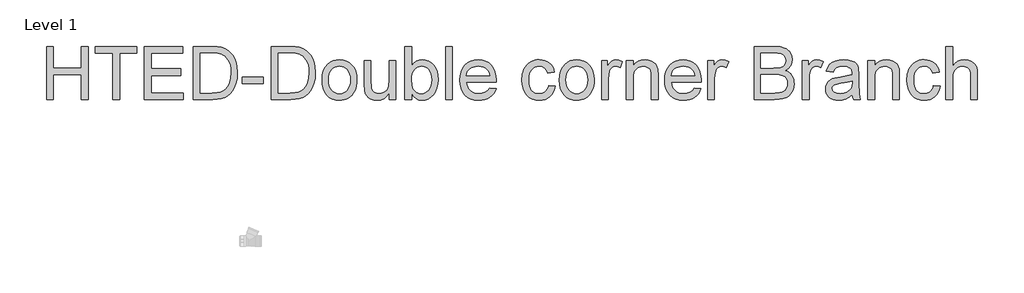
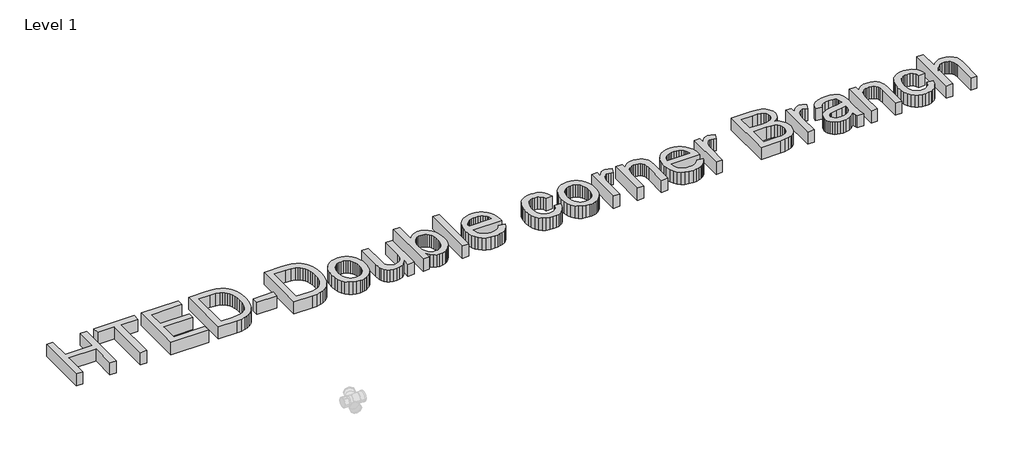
# One storey, part 11 of 29: 1 proxy.
"""IFC4 building model written with IfcOpenShell, lengths in millimetres."""

from ifc_helpers import new_model, si_unit, origin, origin_with_axes, place, context, project, spatial, polyline, outline, extrude, element, save

model = new_model("IFC4")

# Units and contexts
model_context = context("Model", 3, world=origin())
ifc_project = project(units=[si_unit("LENGTHUNIT", "METRE", prefix="MILLI")], contexts=[model_context])

# Site, building, storey
site = spatial("IfcSite", under=ifc_project)
building = spatial("IfcBuilding", under=site)
storey = spatial("IfcBuildingStorey", under=building, Name="Level 1", Elevation=0.0)

# Proxy
placement = place(None, origin())
element("IfcBuildingElementProxy", 1, Name="600mm Arial", ObjectType="600mm Arial", at=placement, inside=storey, context=model_context, shape_type="SweptSolid", body=[
    extrude(outline(polyline([(14763.1344133, -19103.7225193), (14763.1344133, -18500.9846584), (14838.476646, -18500.9846584), (14838.476646, -18745.8469144), (15158.6811346, -18745.8469144), (15158.6811346, -18500.9846584), (15234.0233672, -18500.9846584), (15234.0233672, -19103.7225193), (15158.6811346, -19103.7225193), (15158.6811346, -18821.189147), (14838.476646, -18821.189147), (14838.476646, -19103.7225193), (14763.1344133, -19103.7225193)])), origin_with_axes(), (0.0, 0.0, 1.0), 150.0),
    extrude(outline(polyline([(15516.5567395, -19103.7225193), (15516.5567395, -18576.326891), (15318.7833789, -18576.326891), (15318.7833789, -18500.9846584), (15789.6723327, -18500.9846584), (15789.6723327, -18576.326891), (15591.8989721, -18576.326891), (15591.8989721, -19103.7225193), (15516.5567395, -19103.7225193)])), origin_with_axes(), (0.0, 0.0, 1.0), 150.0),
    extrude(outline(polyline([(15874.4323444, -19103.7225193), (15874.4323444, -18500.9846584), (16307.6501819, -18500.9846584), (16307.6501819, -18576.326891), (15949.774577, -18576.326891), (15949.774577, -18755.2646935), (16288.8146237, -18755.2646935), (16288.8146237, -18830.6069261), (15949.774577, -18830.6069261), (15949.774577, -19028.3802867), (16317.067961, -19028.3802867), (16317.067961, -19103.7225193), (15874.4323444, -19103.7225193)])), origin_with_axes(), (0.0, 0.0, 1.0), 150.0),
    extrude(outline(polyline([(16430.0813099, -19103.7225193), (16430.0813099, -18500.9846584), (16638.0082136, -18500.9846584), (16700.1434825, -18503.1551622), (16745.576909, -18509.6666735), (16793.6222975, -18526.4053043), (16834.1628934, -18552.7824433), (16856.5025275, -18574.3403282), (16875.8439234, -18598.6941163), (16892.1870811, -18625.8438076), (16905.5320005, -18655.789402), (16915.8970757, -18688.254988), (16923.3007008, -18722.9646543), (16929.2236009, -18799.1162273), (16925.2136872, -18863.8082761), (16913.183946, -18920.7380149), (16894.8634226, -18969.2064678), (16871.9811625, -19008.5146589), (16845.6408116, -19039.5455052), (16816.946016, -19063.1819234), (16784.0021834, -19080.7115005), (16744.9147214, -19093.4218234), (16699.6100537, -19101.1473453), (16648.0146038, -19103.7225193), (16430.0813099, -19103.7225193)]), holes=[polyline([(16505.4235425, -19028.3802867), (16638.7439776, -19028.3802867), (16693.8894886, -19025.6579599), (16735.7176715, -19017.4909796), (16767.2819467, -19004.3575924), (16791.6357348, -18986.7360448), (16817.8105387, -18954.123306), (16837.4738313, -18911.908847), (16849.7794841, -18859.908727), (16853.8813683, -18797.9390049), (16851.8718129, -18754.1978357), (16845.8431467, -18715.8277436), (16835.7953697, -18682.8287286), (16821.728482, -18655.2007908), (16804.7829176, -18632.3185307), (16786.0991107, -18613.5565489), (16765.6770615, -18598.9148455), (16743.5167698, -18588.3934205), (16700.1802707, -18579.3435234), (16636.6838384, -18576.326891), (16505.4235425, -18576.326891), (16505.4235425, -19028.3802867)])]), origin_with_axes(), (0.0, 0.0, 1.0), 150.0),
    extrude(outline(polyline([(16985.7302754, -18924.7847168), (16985.7302754, -18849.4424842), (17221.1747523, -18849.4424842), (17221.1747523, -18924.7847168), (16985.7302754, -18924.7847168)])), origin_with_axes(), (0.0, 0.0, 1.0), 150.0),
    extrude(outline(polyline([(17315.3525431, -19103.7225193), (17315.3525431, -18500.9846584), (17523.2794468, -18500.9846584), (17585.4147157, -18503.1551622), (17630.8481421, -18509.6666735), (17678.8935307, -18526.4053043), (17719.4341266, -18552.7824433), (17741.7737607, -18574.3403282), (17761.1151566, -18598.6941163), (17777.4583143, -18625.8438076), (17790.8032337, -18655.789402), (17801.1683089, -18688.254988), (17808.571934, -18722.9646543), (17814.4948341, -18799.1162273), (17810.4849204, -18863.8082761), (17798.4551792, -18920.7380149), (17780.1346558, -18969.2064678), (17757.2523957, -19008.5146589), (17730.9120448, -19039.5455052), (17702.2172492, -19063.1819234), (17669.2734165, -19080.7115005), (17630.1859546, -19093.4218234), (17584.8812869, -19101.1473453), (17533.285837, -19103.7225193), (17315.3525431, -19103.7225193)]), holes=[polyline([(17390.6947757, -19028.3802867), (17524.0152107, -19028.3802867), (17579.1607218, -19025.6579599), (17620.9889047, -19017.4909796), (17652.5531799, -19004.3575924), (17676.9069679, -18986.7360448), (17703.0817719, -18954.123306), (17722.7450645, -18911.908847), (17735.0507173, -18859.908727), (17739.1526015, -18797.9390049), (17737.1430461, -18754.1978357), (17731.1143799, -18715.8277436), (17721.0666029, -18682.8287286), (17706.9997151, -18655.2007908), (17690.0541507, -18632.3185307), (17671.3703439, -18613.5565489), (17650.9482947, -18598.9148455), (17628.788003, -18588.3934205), (17585.4515039, -18579.3435234), (17521.9550716, -18576.326891), (17390.6947757, -18576.326891), (17390.6947757, -19028.3802867)])]), origin_with_axes(), (0.0, 0.0, 1.0), 150.0),
    extrude(outline(polyline([(17889.8370668, -18882.404711), (17893.9113598, -18825.0794991), (17906.1342391, -18775.6821442), (17926.5057046, -18734.2126463), (17955.0257563, -18700.6710054), (17983.738946, -18679.2326821), (18015.4319799, -18663.9195941), (18050.104858, -18654.7317412), (18087.7575802, -18651.6691236), (18129.3236471, -18655.3985274), (18166.9073914, -18666.5867385), (18200.5088132, -18685.2337572), (18230.1279123, -18711.3395832), (18254.3023579, -18744.0213), (18271.569819, -18782.3959906), (18281.9302957, -18826.4636551), (18285.383788, -18876.2242935), (18283.8570777, -18916.5533572), (18279.2769468, -18952.3390783), (18271.6433954, -18983.5814567), (18260.9564235, -19010.2804925), (18247.3493882, -19033.3420951), (18230.9556468, -19053.6721739), (18211.7751993, -19071.2707288), (18189.8080456, -19086.1377599), (18165.9095115, -19097.9513705), (18140.9349226, -19106.3896638), (18114.8842788, -19111.4526397), (18087.7575802, -19113.1402984), (18045.5845079, -19109.4246902), (18007.6512757, -19098.2778658), (17973.9578835, -19079.699825), (17944.5043312, -19053.690568), (17920.587403, -19020.691553), (17903.5038829, -18981.1442385), (17893.2537708, -18935.0486245), (17889.8370668, -18882.404711)]), holes=[polyline([(17965.1792994, -18882.2575582), (17967.3590002, -18918.8020359), (17973.8981026, -18950.444486), (17984.7966068, -18977.1849085), (18000.0545125, -18999.0233035), (18018.6141592, -19015.987262), (18039.417886, -19028.1043752), (18062.465693, -19035.3746431), (18087.7575802, -19037.7980658), (18112.9207086, -19035.3608475), (18135.8765451, -19028.0491929), (18156.6250897, -19015.8631018), (18175.1663422, -18998.8025743), (18190.424248, -18976.7480487), (18201.3227521, -18949.5799633), (18207.8618545, -18917.2983182), (18210.0415554, -18879.9031134), (18207.848059, -18844.517464), (18201.2675698, -18813.7027484), (18190.3000878, -18787.4589666), (18174.945613, -18765.7861185), (18156.3353826, -18748.82216), (18135.6006336, -18736.7050468), (18112.7413662, -18729.4347789), (18087.7575802, -18727.0113562), (18062.465693, -18729.4255818), (18039.417886, -18736.6682586), (18018.6141592, -18748.7393866), (18000.0545125, -18765.6389657), (17984.7966068, -18787.4129813), (17973.8981026, -18814.1074186), (17967.3590002, -18845.7222776), (17965.1792994, -18882.2575582)])]), origin_with_axes(), (0.0, 0.0, 1.0), 150.0),
    extrude(outline(polyline([(18652.677172, -19103.7225193), (18652.677172, -19027.6445227), (18625.4171161, -19065.0489246), (18593.6688999, -19091.7663545), (18557.4325234, -19107.7968124), (18516.7079865, -19113.1402984), (18480.0117575, -19109.387902), (18445.8539143, -19098.130713), (18417.1959068, -19081.2081412), (18396.9991853, -19060.4595967), (18383.4059456, -19035.25968), (18374.5583836, -19004.9829918), (18370.1437997, -18934.9382599), (18370.1437997, -18661.0869027), (18445.4860323, -18661.0869027), (18445.4860323, -18899.4744356), (18446.6264665, -18947.1519422), (18450.047769, -18976.2881962), (18461.0290466, -19001.9111771), (18479.8462106, -19021.3905288), (18505.2484624, -19033.6961815), (18535.9850031, -19037.7980658), (18568.4873774, -19033.604211), (18598.8928243, -19021.0226468), (18623.9639822, -19001.2122013), (18640.4634897, -18975.331703), (18649.6237514, -18939.8862727), (18652.677172, -18891.3810317), (18652.677172, -18661.0869027), (18728.0194046, -18661.0869027), (18728.0194046, -19103.7225193), (18652.677172, -19103.7225193)])), origin_with_axes(), (0.0, 0.0, 1.0), 150.0),
    extrude(outline(polyline([(18906.957207, -19103.7225193), (18831.6149744, -19103.7225193), (18831.6149744, -18500.9846584), (18906.957207, -18500.9846584), (18906.957207, -18724.5097587), (18931.7340594, -18692.6419808), (18959.7114851, -18669.8792824), (18990.8894842, -18656.2216633), (19025.2680567, -18651.6691236), (19064.0796072, -18655.7710079), (19100.7574421, -18668.0766606), (19133.2046341, -18687.8135297), (19159.3242557, -18714.2090628), (19179.7968887, -18747.0057427), (19195.3031148, -18785.9460519), (19205.0703818, -18829.4113096), (19208.3261375, -18875.7828351), (19204.9554187, -18929.2912713), (19194.8432623, -18976.3617726), (19177.9896684, -19016.9943389), (19154.394637, -19051.1889704), (19126.0723219, -19078.2926764), (19095.0368771, -19097.6524664), (19061.2883025, -19109.2683404), (19024.8265983, -19113.1402984), (18989.3167887, -19108.1463003), (18957.8352869, -19093.164306), (18930.3820931, -19068.1943156), (18906.957207, -19033.236329), (18906.957207, -19103.7225193)]), holes=[polyline([(18906.957207, -18879.3145022), (18912.1075549, -18942.148747), (18918.5454899, -18965.9507121), (18927.5585987, -18984.6759057), (18945.8147428, -19007.9168507), (18967.0323368, -19024.5175257), (18991.211381, -19034.4779308), (19018.3518752, -19037.7980658), (19040.8846474, -19035.3516505), (19061.835527, -19028.0124047), (19081.204514, -19015.7803284), (19098.9916085, -18998.6554215), (19113.8632382, -18976.6836693), (19124.4858308, -18949.9110571), (19130.8593863, -18918.3375849), (19132.9839049, -18881.9632526), (19130.9467583, -18844.8991416), (19124.8353187, -18813.0221667), (19114.6495859, -18786.332328), (19100.3895601, -18764.8296253), (19083.2416606, -18748.2841326), (19064.3923069, -18736.4659235), (19043.8414989, -18729.3749981), (19021.5892367, -18727.0113562), (18999.0564645, -18729.4577715), (18978.1055849, -18736.7970173), (18958.7365978, -18749.0290936), (18940.9495034, -18766.1540005), (18926.0778737, -18787.9050235), (18915.4552811, -18814.0154481), (18909.0817255, -18844.4852743), (18906.957207, -18879.3145022)])]), origin_with_axes(), (0.0, 0.0, 1.0), 150.0),
    extrude(outline(polyline([(19293.0861492, -19103.7225193), (19293.0861492, -18500.9846584), (19368.4283818, -18500.9846584), (19368.4283818, -19103.7225193), (19293.0861492, -19103.7225193)])), origin_with_axes(), (0.0, 0.0, 1.0), 150.0),
    extrude(outline(polyline([(19791.3455234, -18971.8736122), (19865.2162281, -18981.2913913), (19853.8900611, -19010.8783008), (19838.5999657, -19036.9519372), (19819.3459418, -19059.5123005), (19796.1279894, -19078.5593908), (19769.1852317, -19093.6885379), (19738.7567922, -19104.4950715), (19704.8426708, -19110.9789917), (19667.4428674, -19113.1402984), (19620.6942629, -19109.4108946), (19579.040824, -19098.2226835), (19542.4825507, -19079.5756648), (19511.0194431, -19053.4698388), (19485.7183589, -19020.6317722), (19467.6461559, -18981.788032), (19456.8028341, -18936.9386183), (19453.1883935, -18886.083531), (19456.8396223, -18833.5039968), (19467.7933087, -18787.1600624), (19486.0494527, -18747.0517279), (19511.6080543, -18713.1789932), (19542.9883885, -18686.2684253), (19578.7097302, -18667.046591), (19618.7720795, -18655.5134905), (19663.1754363, -18651.6691236), (19706.1486519, -18655.5042934), (19745.0107861, -18667.0098028), (19779.7618391, -18686.1856518), (19810.4018108, -18713.0318404), (19835.4131879, -18746.8309987), (19853.2784573, -18786.8657569), (19863.9976189, -18833.1361148), (19867.5706728, -18885.6420726), (19867.1292144, -18905.9491587), (19528.5306261, -18905.9491587), (19532.8946262, -18936.0143147), (19541.5720428, -18962.3454686), (19554.5628758, -18984.9426201), (19571.8671251, -19003.8057694), (19592.5282977, -19018.6773991), (19615.5899002, -19029.2999917), (19641.0519328, -19035.6735472), (19668.9143954, -19037.7980658), (19709.0135329, -19033.8617284), (19742.7851001, -19022.0527164), (19770.2290969, -19001.6352656), (19791.3455234, -18971.8736122)]), holes=[polyline([(19528.5306261, -18830.6069261), (19792.2284402, -18830.6069261), (19782.0381089, -18790.8020942), (19773.2733204, -18775.1487153), (19762.0621166, -18762.3280278), (19741.5159072, -18746.876984), (19718.1370064, -18735.8405241), (19691.9254142, -18729.2186482), (19662.8811307, -18727.0113562), (19636.3890285, -18728.7725913), (19612.0950213, -18734.0562964), (19589.9991089, -18742.8624717), (19570.1012915, -18755.1911171), (19553.4040475, -18770.4720154), (19540.9098552, -18788.1349497), (19532.6187147, -18808.1799199), (19528.5306261, -18830.6069261)])]), origin_with_axes(), (0.0, 0.0, 1.0), 150.0),
    extrude(outline(polyline([(20460.8907546, -18943.620275), (20536.2329873, -18953.0380541), (20528.0384158, -18988.5892504), (20515.2269253, -19020.0477595), (20497.7985158, -19047.4135814), (20475.7531872, -19070.6867161), (20450.0198417, -19089.2601584), (20421.5273812, -19102.5269028), (20390.2758057, -19110.4869495), (20356.2651152, -19113.1402984), (20314.0092695, -19109.4384858), (20276.1220226, -19098.3330481), (20242.6033743, -19079.8239852), (20213.4533247, -19053.9112972), (20189.8582932, -19021.0824276), (20173.0046993, -18981.8248202), (20162.892543, -18936.1384749), (20159.5218242, -18884.0233918), (20165.2791774, -18816.9768982), (20172.4758689, -18786.805976), (20182.5512371, -18758.869937), (20195.5742597, -18733.7298012), (20211.6139147, -18711.9465885), (20230.6702021, -18693.5202991), (20252.7431218, -18678.4509329), (20276.8347939, -18666.7338913), (20301.9473386, -18658.3645759), (20328.0807559, -18653.3429867), (20355.2350456, -18651.6691236), (20388.6617234, -18653.9683861), (20418.8970249, -18660.8661735), (20445.9409501, -18672.3624859), (20469.7934989, -18688.4573231), (20490.0500013, -18708.7828034), (20506.3057869, -18732.9710446), (20518.5608559, -18761.0220467), (20526.8152082, -18792.9358098), (20451.4729756, -18802.3535889), (20437.8061594, -18769.4833326), (20416.524186, -18745.9204908), (20388.8042777, -18731.7386399), (20355.8236568, -18727.0113562), (20330.2236685, -18729.3382099), (20307.1344748, -18736.3187707), (20286.5560757, -18747.9530388), (20268.4884712, -18764.2410142), (20253.7777899, -18785.5597758), (20243.2701604, -18812.2864027), (20236.9655827, -18844.420895), (20234.8640568, -18881.9632526), (20236.9195975, -18920.0712288), (20243.0862194, -18952.5782016), (20253.3639226, -18979.484171), (20267.7527072, -19000.789137), (20285.4616267, -19016.9805434), (20305.699735, -19028.5458336), (20328.467032, -19035.4850077), (20353.7635176, -19037.7980658), (20392.7774032, -19032.0223184), (20409.6493912, -19024.8026343), (20424.7647427, -19014.6950765), (20437.7003934, -19001.5892804), (20448.0332789, -18985.3748815), (20455.7633993, -18966.0518797), (20460.8907546, -18943.620275)])), origin_with_axes(), (0.0, 0.0, 1.0), 150.0),
    extrude(outline(polyline([(20583.3218826, -18882.404711), (20587.3961757, -18825.0794991), (20599.619055, -18775.6821442), (20619.9905205, -18734.2126463), (20648.5105722, -18700.6710054), (20677.2237619, -18679.2326821), (20708.9167958, -18663.9195941), (20743.5896738, -18654.7317412), (20781.242396, -18651.6691236), (20822.808463, -18655.3985274), (20860.3922073, -18666.5867385), (20893.993629, -18685.2337572), (20923.6127282, -18711.3395832), (20947.7871738, -18744.0213), (20965.0546349, -18782.3959906), (20975.4151116, -18826.4636551), (20978.8686039, -18876.2242935), (20977.3418936, -18916.5533572), (20972.7617627, -18952.3390783), (20965.1282113, -18983.5814567), (20954.4412394, -19010.2804925), (20940.8342041, -19033.3420951), (20924.4404627, -19053.6721739), (20905.2600151, -19071.2707288), (20883.2928615, -19086.1377599), (20859.3943274, -19097.9513705), (20834.4197384, -19106.3896638), (20808.3690947, -19111.4526397), (20781.242396, -19113.1402984), (20739.0693238, -19109.4246902), (20701.1360916, -19098.2778658), (20667.4426994, -19079.699825), (20637.9891471, -19053.690568), (20614.0722189, -19020.691553), (20596.9886988, -18981.1442385), (20586.7385867, -18935.0486245), (20583.3218826, -18882.404711)]), holes=[polyline([(20658.6641153, -18882.2575582), (20660.8438161, -18918.8020359), (20667.3829185, -18950.444486), (20678.2814226, -18977.1849085), (20693.5393284, -18999.0233035), (20712.0989751, -19015.987262), (20732.9027019, -19028.1043752), (20755.9505089, -19035.3746431), (20781.242396, -19037.7980658), (20806.4055245, -19035.3608475), (20829.361361, -19028.0491929), (20850.1099055, -19015.8631018), (20868.6511581, -18998.8025743), (20883.9090638, -18976.7480487), (20894.807568, -18949.5799633), (20901.3466704, -18917.2983182), (20903.5263712, -18879.9031134), (20901.3328748, -18844.517464), (20894.7523857, -18813.7027484), (20883.7849037, -18787.4589666), (20868.4304289, -18765.7861185), (20849.8201985, -18748.82216), (20829.0854495, -18736.7050468), (20806.226182, -18729.4347789), (20781.242396, -18727.0113562), (20755.9505089, -18729.4255818), (20732.9027019, -18736.6682586), (20712.0989751, -18748.7393866), (20693.5393284, -18765.6389657), (20678.2814226, -18787.4129813), (20667.3829185, -18814.1074186), (20660.8438161, -18845.7222776), (20658.6641153, -18882.2575582)])]), origin_with_axes(), (0.0, 0.0, 1.0), 150.0),
    extrude(outline(polyline([(21063.6286155, -19103.7225193), (21063.6286155, -18661.0869027), (21129.5530691, -18661.0869027), (21129.5530691, -18726.5698978), (21153.9068572, -18688.6044759), (21176.3476589, -18666.2372506), (21198.862037, -18655.3111554), (21223.4365542, -18651.6691236), (21260.9605178, -18657.4816591), (21299.0730925, -18674.9192657), (21273.909964, -18742.4624), (21247.4224603, -18730.8741172), (21220.9349567, -18727.0113562), (21198.4389727, -18730.7269644), (21178.3342216, -18741.8737888), (21162.0922316, -18759.605701), (21151.1845304, -18783.0765723), (21142.0242687, -18825.1622726), (21138.9708482, -18871.0739455), (21138.9708482, -19103.7225193), (21063.6286155, -19103.7225193)])), origin_with_axes(), (0.0, 0.0, 1.0), 150.0),
    extrude(outline(polyline([(21346.1619878, -19103.7225193), (21346.1619878, -18661.0869027), (21421.5042204, -18661.0869027), (21421.5042204, -18722.8910779), (21447.6790244, -18691.7314729), (21479.1145409, -18669.4746122), (21515.8107699, -18656.1204958), (21557.7677115, -18651.6691236), (21594.9053989, -18655.2559731), (21628.9160893, -18666.0165214), (21657.2797912, -18682.6079994), (21677.4765127, -18703.6876377), (21691.180117, -18729.2002541), (21700.0644672, -18759.0906662), (21704.0375927, -18831.9313013), (21704.0375927, -19103.7225193), (21628.6953601, -19103.7225193), (21628.6953601, -18842.0848443), (21626.5248564, -18803.126141), (21620.013345, -18775.4246268), (21608.0019979, -18755.5773932), (21589.3319866, -18740.1815317), (21565.4012629, -18730.3039001), (21537.6077781, -18727.0113562), (21514.7301166, -18728.8599633), (21493.4803328, -18734.4057843), (21473.8584269, -18743.6488195), (21455.8643988, -18756.5890687), (21440.8318208, -18774.6980599), (21430.094265, -18799.4473211), (21423.6517316, -18830.8368523), (21421.5042204, -18868.8666536), (21421.5042204, -19103.7225193), (21346.1619878, -19103.7225193)])), origin_with_axes(), (0.0, 0.0, 1.0), 150.0),
    extrude(outline(polyline([(22117.5369553, -18971.8736122), (22191.40766, -18981.2913913), (22180.081493, -19010.8783008), (22164.7913976, -19036.9519372), (22145.5373737, -19059.5123005), (22122.3194213, -19078.5593908), (22095.3766636, -19093.6885379), (22064.9482241, -19104.4950715), (22031.0341027, -19110.9789917), (21993.6342993, -19113.1402984), (21946.8856948, -19109.4108946), (21905.2322559, -19098.2226835), (21868.6739826, -19079.5756648), (21837.210875, -19053.4698388), (21811.9097908, -19020.6317722), (21793.8375878, -18981.788032), (21782.994266, -18936.9386183), (21779.3798254, -18886.083531), (21783.0310542, -18833.5039968), (21793.9847406, -18787.1600624), (21812.2408846, -18747.0517279), (21837.7994862, -18713.1789932), (21869.1798204, -18686.2684253), (21904.9011621, -18667.046591), (21944.9635114, -18655.5134905), (21989.3668682, -18651.6691236), (22032.3400838, -18655.5042934), (22071.202218, -18667.0098028), (22105.953271, -18686.1856518), (22136.5932427, -18713.0318404), (22161.6046198, -18746.8309987), (22179.4698892, -18786.8657569), (22190.1890508, -18833.1361148), (22193.7621047, -18885.6420726), (22193.3206463, -18905.9491587), (21854.722058, -18905.9491587), (21859.0860581, -18936.0143147), (21867.7634747, -18962.3454686), (21880.7543077, -18984.9426201), (21898.058557, -19003.8057694), (21918.7197296, -19018.6773991), (21941.7813321, -19029.2999917), (21967.2433647, -19035.6735472), (21995.1058273, -19037.7980658), (22035.2049648, -19033.8617284), (22068.976532, -19022.0527164), (22096.4205288, -19001.6352656), (22117.5369553, -18971.8736122)]), holes=[polyline([(21854.722058, -18830.6069261), (22118.4198721, -18830.6069261), (22108.2295408, -18790.8020942), (22099.4647523, -18775.1487153), (22088.2535485, -18762.3280278), (22067.7073391, -18746.876984), (22044.3284383, -18735.8405241), (22018.1168461, -18729.2186482), (21989.0725626, -18727.0113562), (21962.5804604, -18728.7725913), (21938.2864532, -18734.0562964), (21916.1905408, -18742.8624717), (21896.2927234, -18755.1911171), (21879.5954794, -18770.4720154), (21867.1012871, -18788.1349497), (21858.8101466, -18808.1799199), (21854.722058, -18830.6069261)])]), origin_with_axes(), (0.0, 0.0, 1.0), 150.0),
    extrude(outline(polyline([(22269.1043373, -19103.7225193), (22269.1043373, -18661.0869027), (22335.0287909, -18661.0869027), (22335.0287909, -18726.5698978), (22359.382579, -18688.6044759), (22381.8233807, -18666.2372506), (22404.3377588, -18655.3111554), (22428.912276, -18651.6691236), (22466.4362395, -18657.4816591), (22504.5488142, -18674.9192657), (22479.3856858, -18742.4624), (22452.8981821, -18730.8741172), (22426.4106785, -18727.0113562), (22403.9146945, -18730.7269644), (22383.8099434, -18741.8737888), (22367.5679533, -18759.605701), (22356.6602522, -18783.0765723), (22347.4999905, -18825.1622726), (22344.4465699, -18871.0739455), (22344.4465699, -19103.7225193), (22269.1043373, -19103.7225193)])), origin_with_axes(), (0.0, 0.0, 1.0), 150.0),
    extrude(outline(polyline([(22796.4999656, -19103.7225193), (22796.4999656, -18500.9846584), (23026.499789, -18500.9846584), (23089.7570981, -18505.4176364), (23139.1452559, -18518.7165706), (23159.2224158, -18528.7735446), (23177.0003132, -18541.2125546), (23192.4789482, -18556.0336005), (23205.6583207, -18573.2366823), (23223.7029325, -18610.9077986), (23229.7178031, -18650.3447484), (23224.6594257, -18686.6363073), (23209.4842934, -18720.7573623), (23184.0820416, -18750.6109862), (23148.3423058, -18774.1002516), (23171.0820116, -18783.7939422), (23191.0350113, -18796.3939005), (23208.2013049, -18811.9001266), (23222.5808924, -18830.3126205), (23233.9438476, -18851.0703621), (23242.0602441, -18873.6123313), (23246.930082, -18897.9385282), (23248.5533613, -18924.0489529), (23244.1203833, -18966.0794708), (23230.8214491, -19005.0565682), (23210.9742155, -19038.202736), (23186.8963389, -19062.740465), (23157.410597, -19080.5091654), (23121.3397674, -19093.348247), (23077.5066276, -19101.1289512), (23024.7339554, -19103.7225193), (22796.4999656, -19103.7225193)]), holes=[polyline([(22871.8421982, -18745.8469144), (23009.4300644, -18745.8469144), (23057.5490294, -18744.2282336), (23089.7754922, -18739.3721913), (23117.9000707, -18728.2069727), (23138.1151863, -18711.486736), (23150.3104745, -18689.4689986), (23154.3755705, -18662.4112779), (23150.586386, -18636.1445034), (23139.2188323, -18613.2622433), (23120.7879444, -18595.4015725), (23095.8087569, -18584.1995657), (23057.475453, -18578.2950597), (22998.9822158, -18576.326891), (22871.8421982, -18576.326891), (22871.8421982, -18745.8469144)]), polyline([(22871.8421982, -19028.3802867), (23026.3526362, -19028.3802867), (23082.2706995, -19025.4372307), (23108.2247742, -19018.9073253), (23129.5803241, -19009.0296937), (23146.9443542, -18994.884631), (23160.92387, -18975.5524322), (23170.139314, -18951.8976199), (23173.2111287, -18924.7847168), (23169.6058851, -18893.2940181), (23158.7901545, -18866.2179032), (23139.899414, -18845.0462944), (23112.0691411, -18831.2691137), (23072.6505853, -18823.7091387), (23018.9949963, -18821.189147), (22871.8421982, -18821.189147), (22871.8421982, -19028.3802867)])]), origin_with_axes(), (0.0, 0.0, 1.0), 150.0),
    extrude(outline(polyline([(23342.7311521, -19103.7225193), (23342.7311521, -18661.0869027), (23408.6556056, -18661.0869027), (23408.6556056, -18726.5698978), (23433.0093937, -18688.6044759), (23455.4501954, -18666.2372506), (23477.9645735, -18655.3111554), (23502.5390908, -18651.6691236), (23540.0630543, -18657.4816591), (23578.175629, -18674.9192657), (23553.0125005, -18742.4624), (23526.5249969, -18730.8741172), (23500.0374932, -18727.0113562), (23477.5415092, -18730.7269644), (23457.4367582, -18741.8737888), (23441.1947681, -18759.605701), (23430.2870669, -18783.0765723), (23421.1268052, -18825.1622726), (23418.0733847, -18871.0739455), (23418.0733847, -19103.7225193), (23342.7311521, -19103.7225193)])), origin_with_axes(), (0.0, 0.0, 1.0), 150.0),
    extrude(outline(polyline([(23907.7978967, -19047.2158448), (23871.8006434, -19078.0811442), (23834.7365324, -19098.2778658), (23795.759435, -19109.4246902), (23754.0232227, -19113.1402984), (23720.4769832, -19110.9054153), (23691.0602192, -19104.2007659), (23665.7729306, -19093.0263503), (23644.6151173, -19077.3821684), (23627.9086762, -19058.2615017), (23615.975504, -19036.6576316), (23608.8156006, -19012.5705579), (23606.4289662, -18986.0002808), (23610.0342098, -18954.7670995), (23620.8499404, -18926.4033976), (23637.5333889, -18902.1231859), (23658.7417859, -18883.140475), (23683.6657911, -18868.7930772), (23711.496064, -18858.4188049), (23776.6847536, -18847.0880395), (23853.7192434, -18835.1686628), (23907.3564383, -18821.189147), (23907.7978967, -18804.413728), (23902.6107605, -18770.7893137), (23896.1268404, -18758.3365081), (23887.0493521, -18748.7899704), (23871.359185, -18739.2618267), (23852.2477154, -18732.4560098), (23803.7608684, -18727.0113562), (23758.879265, -18730.6349939), (23727.535719, -18741.5059068), (23706.1617751, -18761.6106579), (23691.1889779, -18792.9358098), (23615.8467453, -18783.5180307), (23628.9249502, -18742.3152472), (23648.4410901, -18709.9416317), (23676.2161807, -18685.1831734), (23714.071238, -18666.8258618), (23760.3691871, -18655.4583082), (23813.4729531, -18651.6691236), (23864.4062153, -18655.0168498), (23904.7812643, -18665.0600283), (23935.2234994, -18680.1615842), (23956.35832, -18698.6844426), (23970.374624, -18721.5850968), (23979.4613093, -18749.8200399), (23983.1401293, -18815.7444935), (23983.1401293, -18909.4808258), (23986.966102, -19040.3732397), (23992.6314847, -19072.7284612), (24001.9756874, -19103.7225193), (23926.6334548, -19103.7225193), (23914.5669254, -19077.5293212), (23907.7978967, -19047.2158448)]), holes=[polyline([(23907.7978967, -18896.5313796), (23857.1773341, -18909.0761557), (23786.2496854, -18919.6343689), (23721.4288779, -18931.8480512), (23704.5614884, -18940.1989724), (23692.0718947, -18951.7136789), (23684.3463728, -18965.5092537), (23681.7711988, -18980.7027801), (23687.3813992, -19003.1067936), (23704.2120005, -19021.4641052), (23731.8951207, -19033.7145756), (23770.0628777, -19037.7980658), (23810.5298971, -19033.2915113), (23846.2880271, -19019.771848), (23875.2771283, -18999.851038), (23895.4370616, -18976.1410434), (23904.3765941, -18951.7136789), (23907.3564383, -18917.8685353), (23907.7978967, -18896.5313796)])]), origin_with_axes(), (0.0, 0.0, 1.0), 150.0),
    extrude(outline(polyline([(24086.7356991, -19103.7225193), (24086.7356991, -18661.0869027), (24162.0779317, -18661.0869027), (24162.0779317, -18722.8910779), (24188.2527357, -18691.7314729), (24219.6882522, -18669.4746122), (24256.3844812, -18656.1204958), (24298.3414227, -18651.6691236), (24335.4791101, -18655.2559731), (24369.4898006, -18666.0165214), (24397.8535024, -18682.6079994), (24418.050224, -18703.6876377), (24431.7538283, -18729.2002541), (24440.6381785, -18759.0906662), (24444.611304, -18831.9313013), (24444.611304, -19103.7225193), (24369.2690714, -19103.7225193), (24369.2690714, -18842.0848443), (24367.0985676, -18803.126141), (24360.5870563, -18775.4246268), (24348.5757092, -18755.5773932), (24329.9056979, -18740.1815317), (24305.9749741, -18730.3039001), (24278.1814894, -18727.0113562), (24255.3038278, -18728.8599633), (24234.0540441, -18734.4057843), (24214.4321382, -18743.6488195), (24196.4381101, -18756.5890687), (24181.405532, -18774.6980599), (24170.6679763, -18799.4473211), (24164.2254429, -18830.8368523), (24162.0779317, -18868.8666536), (24162.0779317, -19103.7225193), (24086.7356991, -19103.7225193)])), origin_with_axes(), (0.0, 0.0, 1.0), 150.0),
    extrude(outline(polyline([(24830.7402462, -18943.620275), (24906.0824788, -18953.0380541), (24897.8879073, -18988.5892504), (24885.0764168, -19020.0477595), (24867.6480073, -19047.4135814), (24845.6026788, -19070.6867161), (24819.8693332, -19089.2601584), (24791.3768727, -19102.5269028), (24760.1252972, -19110.4869495), (24726.1146067, -19113.1402984), (24683.8587611, -19109.4384858), (24645.9715141, -19098.3330481), (24612.4528658, -19079.8239852), (24583.3028162, -19053.9112972), (24559.7077847, -19021.0824276), (24542.8541908, -18981.8248202), (24532.7420345, -18936.1384749), (24529.3713157, -18884.0233918), (24535.1286689, -18816.9768982), (24542.3253605, -18786.805976), (24552.4007286, -18758.869937), (24565.4237512, -18733.7298012), (24581.4634062, -18711.9465885), (24600.5196936, -18693.5202991), (24622.5926133, -18678.4509329), (24646.6842854, -18666.7338913), (24671.7968301, -18658.3645759), (24697.9302474, -18653.3429867), (24725.0845371, -18651.6691236), (24758.5112149, -18653.9683861), (24788.7465164, -18660.8661735), (24815.7904416, -18672.3624859), (24839.6429904, -18688.4573231), (24859.8994928, -18708.7828034), (24876.1552785, -18732.9710446), (24888.4103474, -18761.0220467), (24896.6646997, -18792.9358098), (24821.3224671, -18802.3535889), (24807.655651, -18769.4833326), (24786.3736775, -18745.9204908), (24758.6537692, -18731.7386399), (24725.6731483, -18727.0113562), (24700.07316, -18729.3382099), (24676.9839663, -18736.3187707), (24656.4055672, -18747.9530388), (24638.3379627, -18764.2410142), (24623.6272814, -18785.5597758), (24613.1196519, -18812.2864027), (24606.8150742, -18844.420895), (24604.7135483, -18881.9632526), (24606.769089, -18920.0712288), (24612.9357109, -18952.5782016), (24623.2134141, -18979.484171), (24637.6021987, -19000.789137), (24655.3111182, -19016.9805434), (24675.5492265, -19028.5458336), (24698.3165235, -19035.4850077), (24723.6130092, -19037.7980658), (24762.6268947, -19032.0223184), (24779.4988827, -19024.8026343), (24794.6142342, -19014.6950765), (24807.5498849, -19001.5892804), (24817.8827704, -18985.3748815), (24825.6128908, -18966.0518797), (24830.7402462, -18943.620275)])), origin_with_axes(), (0.0, 0.0, 1.0), 150.0),
    extrude(outline(polyline([(24972.0069323, -19103.7225193), (24972.0069323, -18500.9846584), (25047.3491649, -18500.9846584), (25047.3491649, -18722.5967723), (25075.023088, -18691.565926), (25106.0999195, -18669.4010358), (25140.5796595, -18656.1021017), (25178.462308, -18651.6691236), (25223.9693108, -18656.5067719), (25263.0751669, -18671.0197166), (25293.8668899, -18694.0675236), (25314.4314934, -18724.5097587), (25326.0197763, -18766.3379415), (25329.8825372, -18823.5435918), (25329.8825372, -19103.7225193), (25254.5403046, -19103.7225193), (25254.5403046, -18831.3426901), (25253.0411855, -18805.9036501), (25248.5438281, -18784.1802183), (25241.0482324, -18766.1723946), (25230.5543985, -18751.8801791), (25217.3106467, -18741.0000691), (25201.5652973, -18733.228562), (25183.3183503, -18728.5656577), (25162.5698058, -18727.0113562), (25130.7296191, -18731.205211), (25100.839207, -18743.7867752), (25076.0807487, -18763.5420384), (25059.6364236, -18789.2569898), (25050.4209796, -18823.4332272), (25047.3491649, -18868.572348), (25047.3491649, -19103.7225193), (24972.0069323, -19103.7225193)])), origin_with_axes(), (0.0, 0.0, 1.0), 150.0),
])

save(model, "model.ifc")
